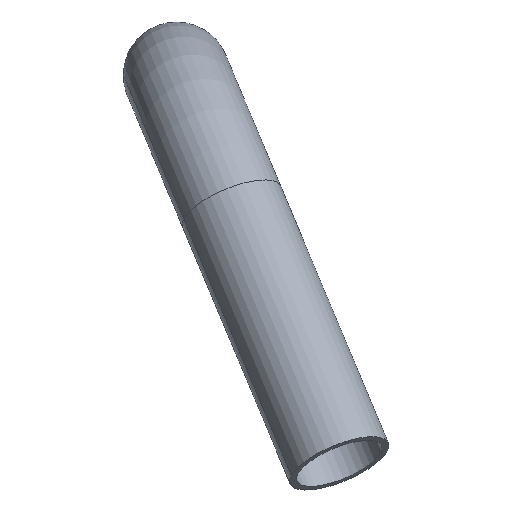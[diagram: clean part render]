
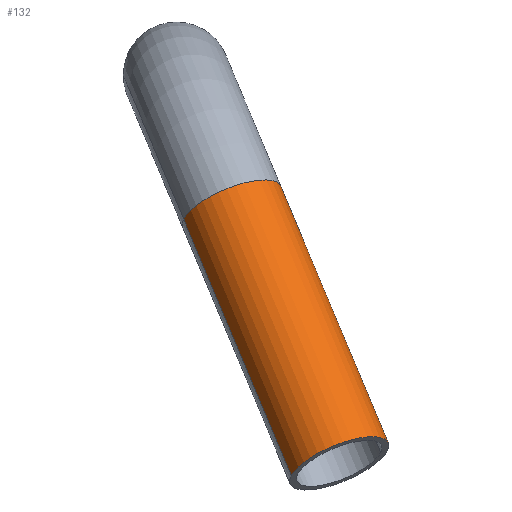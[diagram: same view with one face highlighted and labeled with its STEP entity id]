
A CAD part, left-side view. The second image highlights one B-rep face of the part: STEP entity #132.
In plain terms, the highlighted cylindrical face has radius 11 mm (diameter 22 mm), a partial arc.
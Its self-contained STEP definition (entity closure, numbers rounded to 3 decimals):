
#92=AXIS2_PLACEMENT_3D('Circle Axis2P3D',#90,#91,$) ;
#105=AXIS2_PLACEMENT_3D('Cylinder Axis2P3D',#102,#103,#104) ;
#123=AXIS2_PLACEMENT_3D('Circle Axis2P3D',#121,#122,$) ;
#80=CARTESIAN_POINT('Vertex',(-12918.602,1015.688,490.405)) ;
#87=CARTESIAN_POINT('Vertex',(-12926.585,1035.535,485.27)) ;
#90=CARTESIAN_POINT('Axis2P3D Location',(-12922.593,1025.611,487.838)) ;
#102=CARTESIAN_POINT('Axis2P3D Location',(-12933.192,1014.479,461.288)) ;
#107=CARTESIAN_POINT('Line Origine',(-12929.201,1004.556,463.855)) ;
#111=CARTESIAN_POINT('Vertex',(-12939.8,993.424,437.306)) ;
#114=CARTESIAN_POINT('Line Origine',(-12937.184,1024.403,458.721)) ;
#118=CARTESIAN_POINT('Vertex',(-12947.783,1013.271,432.171)) ;
#121=CARTESIAN_POINT('Axis2P3D Location',(-12943.791,1003.347,434.738)) ;
#91=DIRECTION('Axis2P3D Direction',(0.345,0.363,0.865)) ;
#103=DIRECTION('Axis2P3D Direction',(-0.345,-0.363,-0.865)) ;
#104=DIRECTION('Axis2P3D XDirection',(0.363,-0.902,0.233)) ;
#108=DIRECTION('Vector Direction',(-0.345,-0.363,-0.865)) ;
#115=DIRECTION('Vector Direction',(-0.345,-0.363,-0.865)) ;
#122=DIRECTION('Axis2P3D Direction',(-0.345,-0.363,-0.865)) ;
#109=VECTOR('Line Direction',#108,1.) ;
#116=VECTOR('Line Direction',#115,1.) ;
#127=ORIENTED_EDGE('',*,*,#113,.F.) ;
#128=ORIENTED_EDGE('',*,*,#94,.T.) ;
#129=ORIENTED_EDGE('',*,*,#120,.T.) ;
#130=ORIENTED_EDGE('',*,*,#125,.F.) ;
#132=ADVANCED_FACE('( + ) PartBody',(#131),#106,.T.) ;
#93=CIRCLE('generated circle',#92,11.) ;
#124=CIRCLE('generated circle',#123,11.) ;
#106=CYLINDRICAL_SURFACE('generated cylinder',#105,11.) ;
#94=EDGE_CURVE('',#81,#88,#93,.F.) ;
#113=EDGE_CURVE('',#81,#112,#110,.T.) ;
#120=EDGE_CURVE('',#88,#119,#117,.T.) ;
#125=EDGE_CURVE('',#112,#119,#124,.T.) ;
#126=EDGE_LOOP('',(#127,#128,#129,#130)) ;
#131=FACE_OUTER_BOUND('',#126,.T.) ;
#110=LINE('Line',#107,#109) ;
#117=LINE('Line',#114,#116) ;
#81=VERTEX_POINT('',#80) ;
#88=VERTEX_POINT('',#87) ;
#112=VERTEX_POINT('',#111) ;
#119=VERTEX_POINT('',#118) ;
